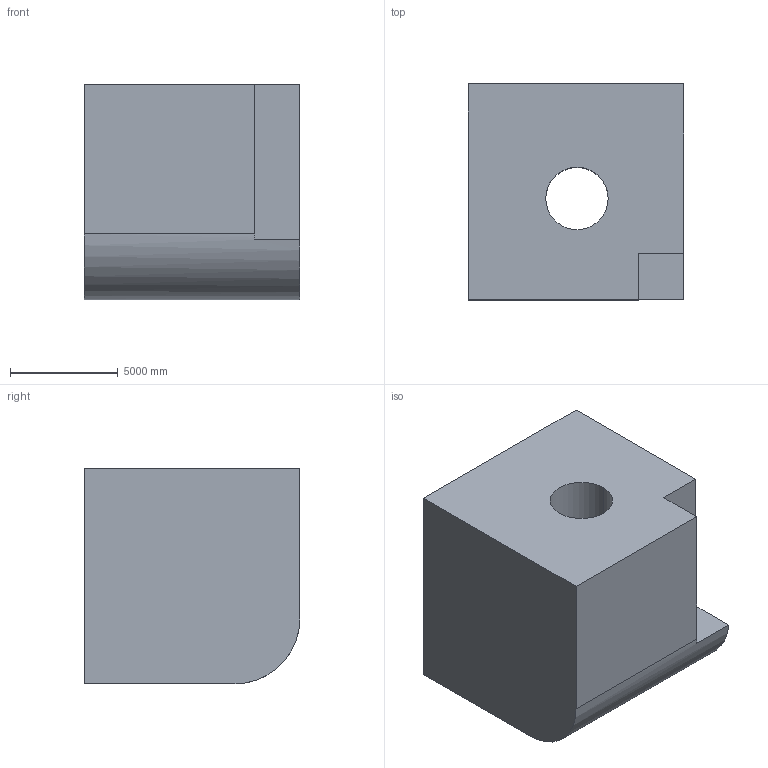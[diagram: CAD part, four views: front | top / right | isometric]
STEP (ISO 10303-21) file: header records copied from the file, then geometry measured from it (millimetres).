
FILE_DESCRIPTION (( 'STEP AP203' ), '1' );
FILE_NAME ('257.STEP', '2022-09-07T12:28:36', ( 'user' ), ( '' ), 'SwSTEP 2.0', 'SolidWorks 2021', '' );
FILE_SCHEMA (( 'CONFIG_CONTROL_DESIGN' ));
Length unit declared in the file: centimetre
Products named in the file (1): 257
Bounding box: 10000 x 10000 x 10000 mm (x, y, z)
Volume: 881775225740.4 mm3; surface area: 660467845.3 mm2
Topology: 1 solids, 1 shells, 12 faces, 30 edges, 20 vertices
Faces by surface type: plane 9, cylinder 3
Entity records: 442 total; most frequent: CARTESIAN_POINT 63, DIRECTION 63, ORIENTED_EDGE 60, EDGE_CURVE 30, LINE 23, VECTOR 23, AXIS2_PLACEMENT_3D 20, VERTEX_POINT 20
